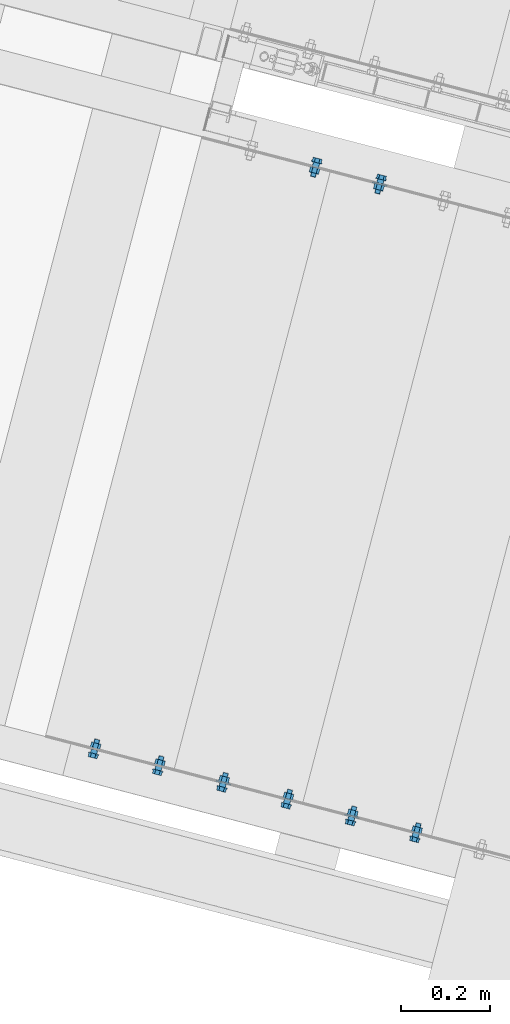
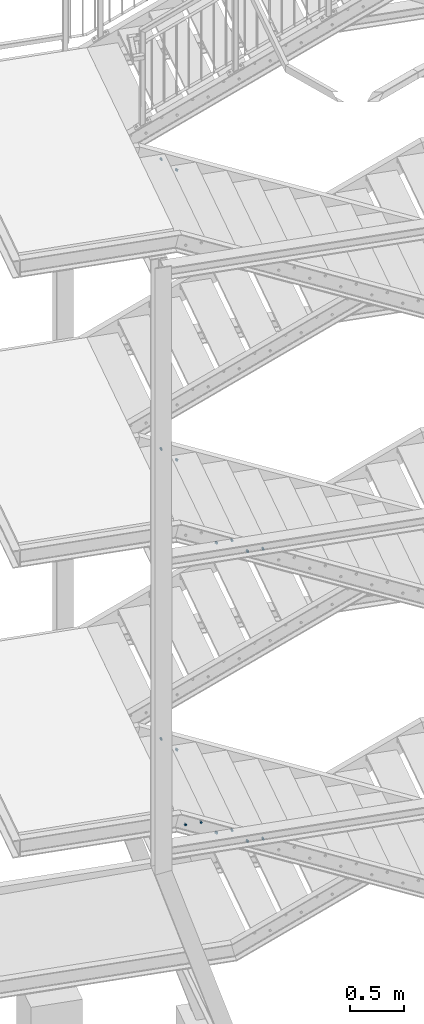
# One storey, part 135 of 169: 16 mechanical fasteners, 8 elements without a shape of their own.
"""IFC2X3 building model written with IfcOpenShell, lengths in millimetres."""

from ifc_helpers import new_model, si_unit, frame, frame_2d, origin_with_axes, origin_2d_with_axis, place, context, subcontext, project, spatial, polyline, circle_curve, parameter, trimmed, segment, composite_curve, circle, outline, extrude, source, transform, mapped, material, type_object, element, aggregate, save


model = new_model("IFC2X3")

# Units and contexts
model_context = context("Model", 3, precision=1e-05, world=origin_with_axes())
body_context = subcontext(model_context, "Body", "Model", "MODEL_VIEW")
ifc_project = project(units=[si_unit("LENGTHUNIT", "METRE", prefix="MILLI"), si_unit("AREAUNIT", "SQUARE_METRE"), si_unit("VOLUMEUNIT", "CUBIC_METRE"), si_unit("MASSUNIT", "GRAM", prefix="KILO"), si_unit("TIMEUNIT", "SECOND"), si_unit("PLANEANGLEUNIT", "RADIAN"), si_unit("SOLIDANGLEUNIT", "STERADIAN"), si_unit("THERMODYNAMICTEMPERATUREUNIT", "DEGREE_CELSIUS"), si_unit("LUMINOUSINTENSITYUNIT", "LUMEN")], contexts=[model_context])

# Site, building, storey
site_placement = place(None, origin_with_axes())
site = spatial("IfcSite", under=ifc_project, at=site_placement, Name="Undefined", CompositionType="ELEMENT")
building_placement = place(site_placement, origin_with_axes())
building = spatial("IfcBuilding", under=site, at=building_placement, Name="Undefined", CompositionType="ELEMENT")
storey_placement = place(building_placement, origin_with_axes())
storey = spatial("IfcBuildingStorey", under=building, at=storey_placement, Name="Undefined", CompositionType="ELEMENT", Elevation=0.0)

# Assembly, mechanical fastener
assembly_1_placement = place(storey_placement, origin_with_axes())
assembly_1 = element("IfcElementAssembly", 1, at=assembly_1_placement, inside=storey, Name="Steel Assembly", AssemblyPlace="NOTDEFINED", PredefinedType="RIGID_FRAME")
ifc_material = material(Name="Undefined")
discrete_accessory_type = type_object("IfcDiscreteAccessoryType", Name="Bolt assembly")
shared_shape_1 = source(origin_with_axes(), body_context, "Body", "SweptSolid", [
    extrude(circle(Radius=7.5, at=origin_2d_with_axis()), frame((0.0, -8.39999975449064, 0.0), z_axis=(0.0, 1.0, 0.0), x_axis=(1.0, 0.0, 0.0)), (0.0, 0.0, 1.0), 8.5),
    extrude(circle(Radius=7.5, at=origin_2d_with_axis()), frame((0.0, -0.100000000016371, 0.0), z_axis=(0.0, 1.0, 0.0), x_axis=(1.0, 0.0, 0.0)), (0.0, 0.0, 1.0), 3.1),
    extrude(outline(polyline([(10.39230484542, 0.0), (5.19615242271, 9.00000000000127), (-5.19615242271, 9.00000000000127), (-10.39230484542, 0.0), (-5.19615242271, -9.00000000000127), (5.19615242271, -9.00000000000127), (10.39230484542, 0.0)])), frame((0.0, -18.4999993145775, 0.0), z_axis=(0.0, 1.0, 0.0), x_axis=(1.0, 0.0, 0.0)), (0.0, 0.0, 1.0), 7.5),
    extrude(circle(Radius=6.0, at=origin_2d_with_axis()), frame((0.0, -10.9999999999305, 0.0), z_axis=(0.0, 1.0, 0.0), x_axis=(1.0, 0.0, 0.0)), (0.0, 0.0, 1.0), 35.0),
    extrude(circle(Radius=12.0, at=origin_2d_with_axis()), frame((0.0, -10.9999999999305, 0.0), z_axis=(0.0, 1.0, 0.0), x_axis=(1.0, 0.0, 0.0)), (0.0, 0.0, 1.0), 2.5),
    extrude(circle(Radius=12.0, at=origin_2d_with_axis()), frame((0.0, 2.99999999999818, 0.0), z_axis=(0.0, 1.0, 0.0), x_axis=(1.0, 0.0, 0.0)), (0.0, 0.0, 1.0), 2.5),
    extrude(outline(polyline([(10.96965511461, 0.0), (5.484827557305, 9.50000000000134), (-5.484827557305, 9.50000000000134), (-10.96965511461, 0.0), (-5.484827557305, -9.50000000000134), (5.484827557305, -9.50000000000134), (10.96965511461, 0.0)])), frame((0.0, 5.50000000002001, 0.0), z_axis=(0.0, 1.0, 0.0), x_axis=(1.0, 0.0, 0.0)), (0.0, 0.0, 1.0), 10.0),
])
mechanical_fastener_1_placement = place(assembly_1_placement, frame((-27982.5921716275, 7168.00676223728, 12200.3215824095), z_axis=(-2.54700353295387e-10, 0.0, -1.0), x_axis=(0.96754609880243, -0.252694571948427, 0.0)))
mechanical_fastener_1 = element("IfcMechanicalFastener", 2, at=mechanical_fastener_1_placement, type_object=discrete_accessory_type, material=ifc_material, Name="Bolt assembly", NominalDiameter=12.0, NominalLength=35.0, context=body_context, shape_type="MappedRepresentation", body=[
    mapped(shared_shape_1, transform((264.999998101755, 3.26144800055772e-09, 24.9999997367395))),
])
aggregate(assembly_1, [mechanical_fastener_1])

assembly_2_placement = place(storey_placement, origin_with_axes())
assembly_2 = element("IfcElementAssembly", 3, at=assembly_2_placement, inside=storey, Name="Steel Assembly", AssemblyPlace="NOTDEFINED", PredefinedType="RIGID_FRAME")
mechanical_fastener_2_placement = place(assembly_2_placement, frame((-27982.7062490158, 7167.56984727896, 8900.32161330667), z_axis=(-2.54700353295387e-10, 0.0, -1.0), x_axis=(0.96754609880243, -0.252694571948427, 0.0)))
mechanical_fastener_2 = element("IfcMechanicalFastener", 4, at=mechanical_fastener_2_placement, type_object=discrete_accessory_type, material=ifc_material, Name="Bolt assembly", NominalDiameter=12.0, NominalLength=35.0, context=body_context, shape_type="MappedRepresentation", body=[
    mapped(shared_shape_1, transform((264.999998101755, 3.26144800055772e-09, 24.9999997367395))),
])
aggregate(assembly_2, [mechanical_fastener_2])

assembly_3_placement = place(storey_placement, origin_with_axes())
assembly_3 = element("IfcElementAssembly", 5, at=assembly_3_placement, inside=storey, Name="Steel Assembly", AssemblyPlace="NOTDEFINED", PredefinedType="RIGID_FRAME")
mechanical_fastener_3_placement = place(assembly_3_placement, frame((-27755.9509862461, 5661.38856575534, 8750.32161330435), z_axis=(-2.54700353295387e-10, 0.0, -1.0), x_axis=(-0.967546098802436, 0.252694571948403, 0.0)))
mechanical_fastener_3 = element("IfcMechanicalFastener", 6, at=mechanical_fastener_3_placement, type_object=discrete_accessory_type, material=ifc_material, Name="Bolt assembly", NominalDiameter=12.0, NominalLength=35.0, context=body_context, shape_type="MappedRepresentation", body=[
    mapped(shared_shape_1, transform((35.0000000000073, -1.23691279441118e-10, 25.0))),
])

assembly_4_placement = place(storey_placement, origin_with_axes())
assembly_4 = element("IfcElementAssembly", 7, at=assembly_4_placement, inside=storey, Name="Steel Assembly", AssemblyPlace="NOTDEFINED", PredefinedType="RIGID_FRAME")
mechanical_fastener_4_placement = place(assembly_4_placement, frame((-27465.6871531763, 5585.58019340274, 8600.32161330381), z_axis=(-2.54700353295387e-10, 0.0, -1.0), x_axis=(-0.967546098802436, 0.252694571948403, 0.0)))
mechanical_fastener_4 = element("IfcMechanicalFastener", 8, at=mechanical_fastener_4_placement, type_object=discrete_accessory_type, material=ifc_material, Name="Bolt assembly", NominalDiameter=12.0, NominalLength=35.0, context=body_context, shape_type="MappedRepresentation", body=[
    mapped(shared_shape_1, transform((35.0000000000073, -1.23691279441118e-10, 25.0))),
])

# Assembly, mechanical fasteners
assembly_5_placement = place(storey_placement, origin_with_axes())
assembly_5 = element("IfcElementAssembly", 9, at=assembly_5_placement, inside=storey, Name="Steel Assembly", AssemblyPlace="NOTDEFINED", PredefinedType="RIGID_FRAME")
mechanical_fastener_5_placement = place(assembly_5_placement, frame((-28046.3288967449, 5736.76002318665, 5600.32164420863), z_axis=(-2.54700353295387e-10, 0.0, -1.0), x_axis=(-0.967546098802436, 0.252694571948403, 0.0)))
mechanical_fastener_5 = element("IfcMechanicalFastener", 10, at=mechanical_fastener_5_placement, type_object=discrete_accessory_type, material=ifc_material, Name="Bolt assembly", NominalDiameter=12.0, NominalLength=35.0, context=body_context, shape_type="MappedRepresentation", body=[
    mapped(shared_shape_1, transform((35.0000000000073, -1.23691279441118e-10, 25.0))),
])
mechanical_fastener_6_placement = place(assembly_5_placement, frame((-27982.8203264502, 7167.13293233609, 5600.32164421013), z_axis=(-2.54700353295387e-10, 0.0, -1.0), x_axis=(0.96754609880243, -0.252694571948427, 0.0)))
mechanical_fastener_6 = element("IfcMechanicalFastener", 11, at=mechanical_fastener_6_placement, type_object=discrete_accessory_type, material=ifc_material, Name="Bolt assembly", NominalDiameter=12.0, NominalLength=35.0, context=body_context, shape_type="MappedRepresentation", body=[
    mapped(shared_shape_1, transform((264.999998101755, 3.26144800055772e-09, 24.9999997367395))),
])

# Assembly, mechanical fastener
assembly_6_placement = place(storey_placement, origin_with_axes())
assembly_6 = element("IfcElementAssembly", 12, at=assembly_6_placement, inside=storey, Name="Steel Assembly", AssemblyPlace="NOTDEFINED", PredefinedType="RIGID_FRAME")
mechanical_fastener_7_placement = place(assembly_6_placement, frame((-27756.0650636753, 5660.95165083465, 5450.32164420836), z_axis=(-2.54700353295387e-10, 0.0, -1.0), x_axis=(-0.967546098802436, 0.252694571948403, 0.0)))
mechanical_fastener_7 = element("IfcMechanicalFastener", 13, at=mechanical_fastener_7_placement, type_object=discrete_accessory_type, material=ifc_material, Name="Bolt assembly", NominalDiameter=12.0, NominalLength=35.0, context=body_context, shape_type="MappedRepresentation", body=[
    mapped(shared_shape_1, transform((35.0000000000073, -1.23691279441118e-10, 25.0))),
])

assembly_7_placement = place(storey_placement, origin_with_axes())
assembly_7 = element("IfcElementAssembly", 14, at=assembly_7_placement, inside=storey, Name="Steel Assembly", AssemblyPlace="NOTDEFINED", PredefinedType="RIGID_FRAME")
mechanical_fastener_8_placement = place(assembly_7_placement, frame((-27465.8012306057, 5585.14327848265, 5300.32164420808), z_axis=(-2.54700353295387e-10, 0.0, -1.0), x_axis=(-0.967546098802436, 0.252694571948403, 0.0)))
mechanical_fastener_8 = element("IfcMechanicalFastener", 15, at=mechanical_fastener_8_placement, type_object=discrete_accessory_type, material=ifc_material, Name="Bolt assembly", NominalDiameter=12.0, NominalLength=35.0, context=body_context, shape_type="MappedRepresentation", body=[
    mapped(shared_shape_1, transform((35.0000000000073, -1.23691279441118e-10, 25.0))),
])

assembly_8_placement = place(storey_placement, origin_with_axes())
assembly_8 = element("IfcElementAssembly", 16, at=assembly_8_placement, inside=storey, Name="Steel Assembly", AssemblyPlace="NOTDEFINED", PredefinedType="RIGID_FRAME")
shared_shape_2 = source(origin_with_axes(), body_context, "Body", "SweptSolid", [
    extrude(circle(Radius=7.5, at=origin_2d_with_axis()), frame((0.0, -8.39999975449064, 0.0), z_axis=(0.0, 1.0, 0.0), x_axis=(1.0, 0.0, 0.0)), (0.0, 0.0, 1.0), 8.5),
    extrude(outline(composite_curve([segment(polyline([(-10.0, 7.5), (10.0, 7.5)]), True, "CONTINUOUS"), segment(trimmed(circle_curve(frame_2d((10.0, 0.0), x_axis=(0.0, 1.0)), 7.5), [parameter(0.0)], [parameter(3.14159265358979)], False, "PARAMETER"), True, "CONTINUOUS"), segment(polyline([(10.0, -7.5), (-10.0, -7.5)]), True, "CONTINUOUS"), segment(trimmed(circle_curve(frame_2d((-10.0, 0.0), x_axis=(0.0, -1.0)), 7.5), [parameter(0.0)], [parameter(3.14159265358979)], False, "PARAMETER"), True, "DISCONTINUOUS")], self_intersect=False)), frame((0.0, -0.100000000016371, 0.0), z_axis=(0.0, 1.0, 0.0), x_axis=(1.0, 0.0, 0.0)), (0.0, 0.0, 1.0), 3.1),
    extrude(outline(polyline([(10.39230484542, 0.0), (5.19615242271, 9.00000000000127), (-5.19615242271, 9.00000000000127), (-10.39230484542, 0.0), (-5.19615242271, -9.00000000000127), (5.19615242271, -9.00000000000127), (10.39230484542, 0.0)])), frame((0.0, -18.4999993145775, 0.0), z_axis=(0.0, 1.0, 0.0), x_axis=(1.0, 0.0, 0.0)), (0.0, 0.0, 1.0), 7.5),
    extrude(circle(Radius=6.0, at=origin_2d_with_axis()), frame((0.0, -10.9999999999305, 0.0), z_axis=(0.0, 1.0, 0.0), x_axis=(1.0, 0.0, 0.0)), (0.0, 0.0, 1.0), 35.0),
    extrude(circle(Radius=12.0, at=origin_2d_with_axis()), frame((0.0, -10.9999999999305, 0.0), z_axis=(0.0, 1.0, 0.0), x_axis=(1.0, 0.0, 0.0)), (0.0, 0.0, 1.0), 2.5),
    extrude(circle(Radius=12.0, at=origin_2d_with_axis()), frame((0.0, 2.99999999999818, 0.0), z_axis=(0.0, 1.0, 0.0), x_axis=(1.0, 0.0, 0.0)), (0.0, 0.0, 1.0), 2.5),
    extrude(outline(polyline([(10.96965511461, 0.0), (5.484827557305, 9.50000000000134), (-5.484827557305, 9.50000000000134), (-10.96965511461, 0.0), (-5.484827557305, -9.50000000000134), (5.484827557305, -9.50000000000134), (10.96965511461, 0.0)])), frame((0.0, 5.50000000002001, 0.0), z_axis=(0.0, 1.0, 0.0), x_axis=(1.0, 0.0, 0.0)), (0.0, 0.0, 1.0), 10.0),
])
mechanical_fastener_9_placement = place(assembly_8_placement, frame((-27692.3283385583, 7092.19838988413, 12050.3215824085), z_axis=(-2.54700353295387e-10, 0.0, -1.0), x_axis=(0.96754609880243, -0.252694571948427, 0.0)))
mechanical_fastener_9 = element("IfcMechanicalFastener", 17, at=mechanical_fastener_9_placement, type_object=discrete_accessory_type, material=ifc_material, Name="Bolt assembly", NominalDiameter=12.0, NominalLength=35.0, context=body_context, shape_type="MappedRepresentation", body=[
    mapped(shared_shape_2, transform((115.000000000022, -4.04725142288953e-10, 25.0))),
])
aggregate(assembly_8, [mechanical_fastener_9])

# Mechanical fastener
shared_shape_3 = source(origin_with_axes(), body_context, "Body", "SweptSolid", [
    extrude(circle(Radius=7.5, at=origin_2d_with_axis()), frame((0.0, -8.39999975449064, 0.0), z_axis=(0.0, 1.0, 0.0), x_axis=(1.0, 0.0, 0.0)), (0.0, 0.0, 1.0), 8.5),
    extrude(outline(composite_curve([segment(polyline([(-10.0, 7.5), (10.0, 7.5)]), True, "CONTINUOUS"), segment(trimmed(circle_curve(frame_2d((10.0, 0.0), x_axis=(0.0, 1.0)), 7.5), [parameter(0.0)], [parameter(3.14159265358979)], False, "PARAMETER"), True, "CONTINUOUS"), segment(polyline([(10.0, -7.5), (-10.0, -7.5)]), True, "CONTINUOUS"), segment(trimmed(circle_curve(frame_2d((-10.0, 0.0), x_axis=(0.0, -1.0)), 7.5), [parameter(0.0)], [parameter(3.14159265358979)], False, "PARAMETER"), True, "DISCONTINUOUS")], self_intersect=False)), frame((0.0, -0.100000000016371, 0.0), z_axis=(0.0, 1.0, 0.0), x_axis=(1.0, 0.0, 0.0)), (0.0, 0.0, 1.0), 3.1),
    extrude(outline(polyline([(10.39230484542, 0.0), (5.19615242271, 9.00000000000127), (-5.19615242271, 9.00000000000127), (-10.39230484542, 0.0), (-5.19615242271, -9.00000000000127), (5.19615242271, -9.00000000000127), (10.39230484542, 0.0)])), frame((0.0, -18.4999993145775, 0.0), z_axis=(0.0, 1.0, 0.0), x_axis=(1.0, 0.0, 0.0)), (0.0, 0.0, 1.0), 7.5),
    extrude(circle(Radius=6.0, at=origin_2d_with_axis()), frame((0.0, -10.9999999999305, 0.0), z_axis=(0.0, 1.0, 0.0), x_axis=(1.0, 0.0, 0.0)), (0.0, 0.0, 1.0), 35.0),
    extrude(circle(Radius=12.0, at=origin_2d_with_axis()), frame((0.0, -10.9999999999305, 0.0), z_axis=(0.0, 1.0, 0.0), x_axis=(1.0, 0.0, 0.0)), (0.0, 0.0, 1.0), 2.5),
    extrude(circle(Radius=12.0, at=origin_2d_with_axis()), frame((0.0, 2.99999999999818, 0.0), z_axis=(0.0, 1.0, 0.0), x_axis=(1.0, 0.0, 0.0)), (0.0, 0.0, 1.0), 2.5),
    extrude(outline(polyline([(10.96965511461, 0.0), (5.484827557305, 9.50000000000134), (-5.484827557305, 9.50000000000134), (-10.96965511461, 0.0), (-5.484827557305, -9.50000000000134), (5.484827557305, -9.50000000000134), (10.96965511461, 0.0)])), frame((0.0, 5.50000000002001, 0.0), z_axis=(0.0, 1.0, 0.0), x_axis=(1.0, 0.0, 0.0)), (0.0, 0.0, 1.0), 10.0),
])
mechanical_fastener_10_placement = place(assembly_3_placement, frame((-27755.9509862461, 5661.38856575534, 8750.32161330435), z_axis=(-2.54700353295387e-10, 0.0, -1.0), x_axis=(-0.967546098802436, 0.252694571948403, 0.0)))
mechanical_fastener_10 = element("IfcMechanicalFastener", 18, at=mechanical_fastener_10_placement, type_object=discrete_accessory_type, material=ifc_material, Name="Bolt assembly", NominalDiameter=12.0, NominalLength=35.0, context=body_context, shape_type="MappedRepresentation", body=[
    mapped(shared_shape_3, transform((185.00000000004, -6.51198206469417e-10, 25.0))),
])

shared_shape_4 = source(origin_with_axes(), body_context, "Body", "SweptSolid", [
    extrude(circle(Radius=7.5, at=origin_2d_with_axis()), frame((0.0, -8.39999975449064, 0.0), z_axis=(0.0, 1.0, 0.0), x_axis=(1.0, 0.0, 0.0)), (0.0, 0.0, 1.0), 8.5),
    extrude(outline(composite_curve([segment(polyline([(-10.0, 7.5), (10.0, 7.5)]), True, "CONTINUOUS"), segment(trimmed(circle_curve(frame_2d((10.0, 0.0), x_axis=(0.0, 1.0)), 7.5), [parameter(0.0)], [parameter(3.14159265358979)], False, "PARAMETER"), True, "CONTINUOUS"), segment(polyline([(10.0, -7.5), (-10.0, -7.5)]), True, "CONTINUOUS"), segment(trimmed(circle_curve(frame_2d((-10.0, 0.0), x_axis=(0.0, -1.0)), 7.5), [parameter(0.0)], [parameter(3.14159265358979)], False, "PARAMETER"), True, "DISCONTINUOUS")], self_intersect=False)), frame((0.0, -0.100000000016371, 0.0), z_axis=(0.0, 1.0, 0.0), x_axis=(1.0, 0.0, 0.0)), (0.0, 0.0, 1.0), 3.1),
    extrude(outline(polyline([(10.39230484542, 0.0), (5.19615242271, 9.00000000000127), (-5.19615242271, 9.00000000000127), (-10.39230484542, 0.0), (-5.19615242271, -9.00000000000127), (5.19615242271, -9.00000000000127), (10.39230484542, 0.0)])), frame((0.0, -18.4999993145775, 0.0), z_axis=(0.0, 1.0, 0.0), x_axis=(1.0, 0.0, 0.0)), (0.0, 0.0, 1.0), 7.5),
    extrude(circle(Radius=6.0, at=origin_2d_with_axis()), frame((0.0, -10.9999999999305, 0.0), z_axis=(0.0, 1.0, 0.0), x_axis=(1.0, 0.0, 0.0)), (0.0, 0.0, 1.0), 35.0),
    extrude(circle(Radius=12.0, at=origin_2d_with_axis()), frame((0.0, -10.9999999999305, 0.0), z_axis=(0.0, 1.0, 0.0), x_axis=(1.0, 0.0, 0.0)), (0.0, 0.0, 1.0), 2.5),
    extrude(circle(Radius=12.0, at=origin_2d_with_axis()), frame((0.0, 2.99999999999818, 0.0), z_axis=(0.0, 1.0, 0.0), x_axis=(1.0, 0.0, 0.0)), (0.0, 0.0, 1.0), 2.5),
    extrude(outline(polyline([(10.96965511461, 0.0), (5.484827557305, 9.50000000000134), (-5.484827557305, 9.50000000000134), (-10.96965511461, 0.0), (-5.484827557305, -9.50000000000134), (5.484827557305, -9.50000000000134), (10.96965511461, 0.0)])), frame((0.0, 5.50000000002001, 0.0), z_axis=(0.0, 1.0, 0.0), x_axis=(1.0, 0.0, 0.0)), (0.0, 0.0, 1.0), 10.0),
])
mechanical_fastener_11_placement = place(assembly_3_placement, frame((-27692.442415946, 7091.76147492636, 8750.32161330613), z_axis=(-2.54700353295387e-10, 0.0, -1.0), x_axis=(0.96754609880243, -0.252694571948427, 0.0)))
mechanical_fastener_11 = element("IfcMechanicalFastener", 19, at=mechanical_fastener_11_placement, type_object=discrete_accessory_type, material=ifc_material, Name="Bolt assembly", NominalDiameter=12.0, NominalLength=35.0, context=body_context, shape_type="MappedRepresentation", body=[
    mapped(shared_shape_4, transform((115.000000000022, -4.04725142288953e-10, 25.0))),
])

aggregate(assembly_3, [mechanical_fastener_10, mechanical_fastener_3, mechanical_fastener_11])

shared_shape_5 = source(origin_with_axes(), body_context, "Body", "SweptSolid", [
    extrude(circle(Radius=7.5, at=origin_2d_with_axis()), frame((0.0, -8.39999975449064, 0.0), z_axis=(0.0, 1.0, 0.0), x_axis=(1.0, 0.0, 0.0)), (0.0, 0.0, 1.0), 8.5),
    extrude(outline(composite_curve([segment(polyline([(-10.0, 7.5), (10.0, 7.5)]), True, "CONTINUOUS"), segment(trimmed(circle_curve(frame_2d((10.0, 0.0), x_axis=(0.0, 1.0)), 7.5), [parameter(0.0)], [parameter(3.14159265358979)], False, "PARAMETER"), True, "CONTINUOUS"), segment(polyline([(10.0, -7.5), (-10.0, -7.5)]), True, "CONTINUOUS"), segment(trimmed(circle_curve(frame_2d((-10.0, 0.0), x_axis=(0.0, -1.0)), 7.5), [parameter(0.0)], [parameter(3.14159265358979)], False, "PARAMETER"), True, "DISCONTINUOUS")], self_intersect=False)), frame((0.0, -0.100000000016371, 0.0), z_axis=(0.0, 1.0, 0.0), x_axis=(1.0, 0.0, 0.0)), (0.0, 0.0, 1.0), 3.1),
    extrude(outline(polyline([(10.39230484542, 0.0), (5.19615242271, 9.00000000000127), (-5.19615242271, 9.00000000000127), (-10.39230484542, 0.0), (-5.19615242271, -9.00000000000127), (5.19615242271, -9.00000000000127), (10.39230484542, 0.0)])), frame((0.0, -18.4999993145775, 0.0), z_axis=(0.0, 1.0, 0.0), x_axis=(1.0, 0.0, 0.0)), (0.0, 0.0, 1.0), 7.5),
    extrude(circle(Radius=6.0, at=origin_2d_with_axis()), frame((0.0, -10.9999999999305, 0.0), z_axis=(0.0, 1.0, 0.0), x_axis=(1.0, 0.0, 0.0)), (0.0, 0.0, 1.0), 35.0),
    extrude(circle(Radius=12.0, at=origin_2d_with_axis()), frame((0.0, -10.9999999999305, 0.0), z_axis=(0.0, 1.0, 0.0), x_axis=(1.0, 0.0, 0.0)), (0.0, 0.0, 1.0), 2.5),
    extrude(circle(Radius=12.0, at=origin_2d_with_axis()), frame((0.0, 2.99999999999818, 0.0), z_axis=(0.0, 1.0, 0.0), x_axis=(1.0, 0.0, 0.0)), (0.0, 0.0, 1.0), 2.5),
    extrude(outline(polyline([(10.96965511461, 0.0), (5.484827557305, 9.50000000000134), (-5.484827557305, 9.50000000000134), (-10.96965511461, 0.0), (-5.484827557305, -9.50000000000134), (5.484827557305, -9.50000000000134), (10.96965511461, 0.0)])), frame((0.0, 5.50000000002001, 0.0), z_axis=(0.0, 1.0, 0.0), x_axis=(1.0, 0.0, 0.0)), (0.0, 0.0, 1.0), 10.0),
])
mechanical_fastener_12_placement = place(assembly_4_placement, frame((-27465.6871531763, 5585.58019340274, 8600.32161330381), z_axis=(-2.54700353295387e-10, 0.0, -1.0), x_axis=(-0.967546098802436, 0.252694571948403, 0.0)))
mechanical_fastener_12 = element("IfcMechanicalFastener", 20, at=mechanical_fastener_12_placement, type_object=discrete_accessory_type, material=ifc_material, Name="Bolt assembly", NominalDiameter=12.0, NominalLength=35.0, context=body_context, shape_type="MappedRepresentation", body=[
    mapped(shared_shape_5, transform((185.00000000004, -6.51198206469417e-10, 25.0))),
])

aggregate(assembly_4, [mechanical_fastener_12, mechanical_fastener_4])

shared_shape_6 = source(origin_with_axes(), body_context, "Body", "SweptSolid", [
    extrude(circle(Radius=7.5, at=origin_2d_with_axis()), frame((0.0, -8.39999975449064, 0.0), z_axis=(0.0, 1.0, 0.0), x_axis=(1.0, 0.0, 0.0)), (0.0, 0.0, 1.0), 8.5),
    extrude(outline(composite_curve([segment(polyline([(-10.0, 7.5), (10.0, 7.5)]), True, "CONTINUOUS"), segment(trimmed(circle_curve(frame_2d((10.0, 0.0), x_axis=(0.0, 1.0)), 7.5), [parameter(0.0)], [parameter(3.14159265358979)], False, "PARAMETER"), True, "CONTINUOUS"), segment(polyline([(10.0, -7.5), (-10.0, -7.5)]), True, "CONTINUOUS"), segment(trimmed(circle_curve(frame_2d((-10.0, 0.0), x_axis=(0.0, -1.0)), 7.5), [parameter(0.0)], [parameter(3.14159265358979)], False, "PARAMETER"), True, "DISCONTINUOUS")], self_intersect=False)), frame((0.0, -0.100000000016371, 0.0), z_axis=(0.0, 1.0, 0.0), x_axis=(1.0, 0.0, 0.0)), (0.0, 0.0, 1.0), 3.1),
    extrude(outline(polyline([(10.39230484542, 0.0), (5.19615242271, 9.00000000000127), (-5.19615242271, 9.00000000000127), (-10.39230484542, 0.0), (-5.19615242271, -9.00000000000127), (5.19615242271, -9.00000000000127), (10.39230484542, 0.0)])), frame((0.0, -18.4999993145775, 0.0), z_axis=(0.0, 1.0, 0.0), x_axis=(1.0, 0.0, 0.0)), (0.0, 0.0, 1.0), 7.5),
    extrude(circle(Radius=6.0, at=origin_2d_with_axis()), frame((0.0, -10.9999999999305, 0.0), z_axis=(0.0, 1.0, 0.0), x_axis=(1.0, 0.0, 0.0)), (0.0, 0.0, 1.0), 35.0),
    extrude(circle(Radius=12.0, at=origin_2d_with_axis()), frame((0.0, -10.9999999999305, 0.0), z_axis=(0.0, 1.0, 0.0), x_axis=(1.0, 0.0, 0.0)), (0.0, 0.0, 1.0), 2.5),
    extrude(circle(Radius=12.0, at=origin_2d_with_axis()), frame((0.0, 2.99999999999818, 0.0), z_axis=(0.0, 1.0, 0.0), x_axis=(1.0, 0.0, 0.0)), (0.0, 0.0, 1.0), 2.5),
    extrude(outline(polyline([(10.96965511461, 0.0), (5.484827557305, 9.50000000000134), (-5.484827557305, 9.50000000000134), (-10.96965511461, 0.0), (-5.484827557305, -9.50000000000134), (5.484827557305, -9.50000000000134), (10.96965511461, 0.0)])), frame((0.0, 5.50000000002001, 0.0), z_axis=(0.0, 1.0, 0.0), x_axis=(1.0, 0.0, 0.0)), (0.0, 0.0, 1.0), 10.0),
])
mechanical_fastener_13_placement = place(assembly_5_placement, frame((-28046.3288967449, 5736.76002318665, 5600.32164420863), z_axis=(-2.54700353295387e-10, 0.0, -1.0), x_axis=(-0.967546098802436, 0.252694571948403, 0.0)))
mechanical_fastener_13 = element("IfcMechanicalFastener", 21, at=mechanical_fastener_13_placement, type_object=discrete_accessory_type, material=ifc_material, Name="Bolt assembly", NominalDiameter=12.0, NominalLength=35.0, context=body_context, shape_type="MappedRepresentation", body=[
    mapped(shared_shape_6, transform((185.00000000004, -6.51198206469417e-10, 25.0))),
])

aggregate(assembly_5, [mechanical_fastener_13, mechanical_fastener_5, mechanical_fastener_6])

shared_shape_7 = source(origin_with_axes(), body_context, "Body", "SweptSolid", [
    extrude(circle(Radius=7.5, at=origin_2d_with_axis()), frame((0.0, -8.39999975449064, 0.0), z_axis=(0.0, 1.0, 0.0), x_axis=(1.0, 0.0, 0.0)), (0.0, 0.0, 1.0), 8.5),
    extrude(outline(composite_curve([segment(polyline([(-10.0, 7.5), (10.0, 7.5)]), True, "CONTINUOUS"), segment(trimmed(circle_curve(frame_2d((10.0, 0.0), x_axis=(0.0, 1.0)), 7.5), [parameter(0.0)], [parameter(3.14159265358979)], False, "PARAMETER"), True, "CONTINUOUS"), segment(polyline([(10.0, -7.5), (-10.0, -7.5)]), True, "CONTINUOUS"), segment(trimmed(circle_curve(frame_2d((-10.0, 0.0), x_axis=(0.0, -1.0)), 7.5), [parameter(0.0)], [parameter(3.14159265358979)], False, "PARAMETER"), True, "DISCONTINUOUS")], self_intersect=False)), frame((0.0, -0.100000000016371, 0.0), z_axis=(0.0, 1.0, 0.0), x_axis=(1.0, 0.0, 0.0)), (0.0, 0.0, 1.0), 3.1),
    extrude(outline(polyline([(10.39230484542, 0.0), (5.19615242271, 9.00000000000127), (-5.19615242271, 9.00000000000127), (-10.39230484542, 0.0), (-5.19615242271, -9.00000000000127), (5.19615242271, -9.00000000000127), (10.39230484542, 0.0)])), frame((0.0, -18.4999993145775, 0.0), z_axis=(0.0, 1.0, 0.0), x_axis=(1.0, 0.0, 0.0)), (0.0, 0.0, 1.0), 7.5),
    extrude(circle(Radius=6.0, at=origin_2d_with_axis()), frame((0.0, -10.9999999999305, 0.0), z_axis=(0.0, 1.0, 0.0), x_axis=(1.0, 0.0, 0.0)), (0.0, 0.0, 1.0), 35.0),
    extrude(circle(Radius=12.0, at=origin_2d_with_axis()), frame((0.0, -10.9999999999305, 0.0), z_axis=(0.0, 1.0, 0.0), x_axis=(1.0, 0.0, 0.0)), (0.0, 0.0, 1.0), 2.5),
    extrude(circle(Radius=12.0, at=origin_2d_with_axis()), frame((0.0, 2.99999999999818, 0.0), z_axis=(0.0, 1.0, 0.0), x_axis=(1.0, 0.0, 0.0)), (0.0, 0.0, 1.0), 2.5),
    extrude(outline(polyline([(10.96965511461, 0.0), (5.484827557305, 9.50000000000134), (-5.484827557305, 9.50000000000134), (-10.96965511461, 0.0), (-5.484827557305, -9.50000000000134), (5.484827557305, -9.50000000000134), (10.96965511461, 0.0)])), frame((0.0, 5.50000000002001, 0.0), z_axis=(0.0, 1.0, 0.0), x_axis=(1.0, 0.0, 0.0)), (0.0, 0.0, 1.0), 10.0),
])
mechanical_fastener_14_placement = place(assembly_6_placement, frame((-27756.0650636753, 5660.95165083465, 5450.32164420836), z_axis=(-2.54700353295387e-10, 0.0, -1.0), x_axis=(-0.967546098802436, 0.252694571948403, 0.0)))
mechanical_fastener_14 = element("IfcMechanicalFastener", 22, at=mechanical_fastener_14_placement, type_object=discrete_accessory_type, material=ifc_material, Name="Bolt assembly", NominalDiameter=12.0, NominalLength=35.0, context=body_context, shape_type="MappedRepresentation", body=[
    mapped(shared_shape_7, transform((185.00000000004, -6.51198206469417e-10, 25.0))),
])

shared_shape_8 = source(origin_with_axes(), body_context, "Body", "SweptSolid", [
    extrude(circle(Radius=7.5, at=origin_2d_with_axis()), frame((0.0, -8.39999975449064, 0.0), z_axis=(0.0, 1.0, 0.0), x_axis=(1.0, 0.0, 0.0)), (0.0, 0.0, 1.0), 8.5),
    extrude(outline(composite_curve([segment(polyline([(-10.0, 7.5), (10.0, 7.5)]), True, "CONTINUOUS"), segment(trimmed(circle_curve(frame_2d((10.0, 0.0), x_axis=(0.0, 1.0)), 7.5), [parameter(0.0)], [parameter(3.14159265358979)], False, "PARAMETER"), True, "CONTINUOUS"), segment(polyline([(10.0, -7.5), (-10.0, -7.5)]), True, "CONTINUOUS"), segment(trimmed(circle_curve(frame_2d((-10.0, 0.0), x_axis=(0.0, -1.0)), 7.5), [parameter(0.0)], [parameter(3.14159265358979)], False, "PARAMETER"), True, "DISCONTINUOUS")], self_intersect=False)), frame((0.0, -0.100000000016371, 0.0), z_axis=(0.0, 1.0, 0.0), x_axis=(1.0, 0.0, 0.0)), (0.0, 0.0, 1.0), 3.1),
    extrude(outline(polyline([(10.39230484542, 0.0), (5.19615242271, 9.00000000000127), (-5.19615242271, 9.00000000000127), (-10.39230484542, 0.0), (-5.19615242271, -9.00000000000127), (5.19615242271, -9.00000000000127), (10.39230484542, 0.0)])), frame((0.0, -18.4999993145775, 0.0), z_axis=(0.0, 1.0, 0.0), x_axis=(1.0, 0.0, 0.0)), (0.0, 0.0, 1.0), 7.5),
    extrude(circle(Radius=6.0, at=origin_2d_with_axis()), frame((0.0, -10.9999999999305, 0.0), z_axis=(0.0, 1.0, 0.0), x_axis=(1.0, 0.0, 0.0)), (0.0, 0.0, 1.0), 35.0),
    extrude(circle(Radius=12.0, at=origin_2d_with_axis()), frame((0.0, -10.9999999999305, 0.0), z_axis=(0.0, 1.0, 0.0), x_axis=(1.0, 0.0, 0.0)), (0.0, 0.0, 1.0), 2.5),
    extrude(circle(Radius=12.0, at=origin_2d_with_axis()), frame((0.0, 2.99999999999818, 0.0), z_axis=(0.0, 1.0, 0.0), x_axis=(1.0, 0.0, 0.0)), (0.0, 0.0, 1.0), 2.5),
    extrude(outline(polyline([(10.96965511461, 0.0), (5.484827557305, 9.50000000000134), (-5.484827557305, 9.50000000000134), (-10.96965511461, 0.0), (-5.484827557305, -9.50000000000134), (5.484827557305, -9.50000000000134), (10.96965511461, 0.0)])), frame((0.0, 5.50000000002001, 0.0), z_axis=(0.0, 1.0, 0.0), x_axis=(1.0, 0.0, 0.0)), (0.0, 0.0, 1.0), 10.0),
])
mechanical_fastener_15_placement = place(assembly_6_placement, frame((-27692.5564933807, 7091.32455998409, 5450.32164420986), z_axis=(-2.54700353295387e-10, 0.0, -1.0), x_axis=(0.96754609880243, -0.252694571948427, 0.0)))
mechanical_fastener_15 = element("IfcMechanicalFastener", 23, at=mechanical_fastener_15_placement, type_object=discrete_accessory_type, material=ifc_material, Name="Bolt assembly", NominalDiameter=12.0, NominalLength=35.0, context=body_context, shape_type="MappedRepresentation", body=[
    mapped(shared_shape_8, transform((115.000000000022, -4.04725142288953e-10, 25.0))),
])

aggregate(assembly_6, [mechanical_fastener_14, mechanical_fastener_7, mechanical_fastener_15])

shared_shape_9 = source(origin_with_axes(), body_context, "Body", "SweptSolid", [
    extrude(circle(Radius=7.5, at=origin_2d_with_axis()), frame((0.0, -8.39999975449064, 0.0), z_axis=(0.0, 1.0, 0.0), x_axis=(1.0, 0.0, 0.0)), (0.0, 0.0, 1.0), 8.5),
    extrude(outline(composite_curve([segment(polyline([(-10.0, 7.5), (10.0, 7.5)]), True, "CONTINUOUS"), segment(trimmed(circle_curve(frame_2d((10.0, 0.0), x_axis=(0.0, 1.0)), 7.5), [parameter(0.0)], [parameter(3.14159265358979)], False, "PARAMETER"), True, "CONTINUOUS"), segment(polyline([(10.0, -7.5), (-10.0, -7.5)]), True, "CONTINUOUS"), segment(trimmed(circle_curve(frame_2d((-10.0, 0.0), x_axis=(0.0, -1.0)), 7.5), [parameter(0.0)], [parameter(3.14159265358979)], False, "PARAMETER"), True, "DISCONTINUOUS")], self_intersect=False)), frame((0.0, -0.100000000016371, 0.0), z_axis=(0.0, 1.0, 0.0), x_axis=(1.0, 0.0, 0.0)), (0.0, 0.0, 1.0), 3.1),
    extrude(outline(polyline([(10.39230484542, 0.0), (5.19615242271, 9.00000000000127), (-5.19615242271, 9.00000000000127), (-10.39230484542, 0.0), (-5.19615242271, -9.00000000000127), (5.19615242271, -9.00000000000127), (10.39230484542, 0.0)])), frame((0.0, -18.4999993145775, 0.0), z_axis=(0.0, 1.0, 0.0), x_axis=(1.0, 0.0, 0.0)), (0.0, 0.0, 1.0), 7.5),
    extrude(circle(Radius=6.0, at=origin_2d_with_axis()), frame((0.0, -10.9999999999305, 0.0), z_axis=(0.0, 1.0, 0.0), x_axis=(1.0, 0.0, 0.0)), (0.0, 0.0, 1.0), 35.0),
    extrude(circle(Radius=12.0, at=origin_2d_with_axis()), frame((0.0, -10.9999999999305, 0.0), z_axis=(0.0, 1.0, 0.0), x_axis=(1.0, 0.0, 0.0)), (0.0, 0.0, 1.0), 2.5),
    extrude(circle(Radius=12.0, at=origin_2d_with_axis()), frame((0.0, 2.99999999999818, 0.0), z_axis=(0.0, 1.0, 0.0), x_axis=(1.0, 0.0, 0.0)), (0.0, 0.0, 1.0), 2.5),
    extrude(outline(polyline([(10.96965511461, 0.0), (5.484827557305, 9.50000000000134), (-5.484827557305, 9.50000000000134), (-10.96965511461, 0.0), (-5.484827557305, -9.50000000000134), (5.484827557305, -9.50000000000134), (10.96965511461, 0.0)])), frame((0.0, 5.50000000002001, 0.0), z_axis=(0.0, 1.0, 0.0), x_axis=(1.0, 0.0, 0.0)), (0.0, 0.0, 1.0), 10.0),
])
mechanical_fastener_16_placement = place(assembly_7_placement, frame((-27465.8012306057, 5585.14327848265, 5300.32164420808), z_axis=(-2.54700353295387e-10, 0.0, -1.0), x_axis=(-0.967546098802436, 0.252694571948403, 0.0)))
mechanical_fastener_16 = element("IfcMechanicalFastener", 24, at=mechanical_fastener_16_placement, type_object=discrete_accessory_type, material=ifc_material, Name="Bolt assembly", NominalDiameter=12.0, NominalLength=35.0, context=body_context, shape_type="MappedRepresentation", body=[
    mapped(shared_shape_9, transform((185.00000000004, -6.51198206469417e-10, 25.0))),
])

aggregate(assembly_7, [mechanical_fastener_16, mechanical_fastener_8])

save(model, "model.ifc")
